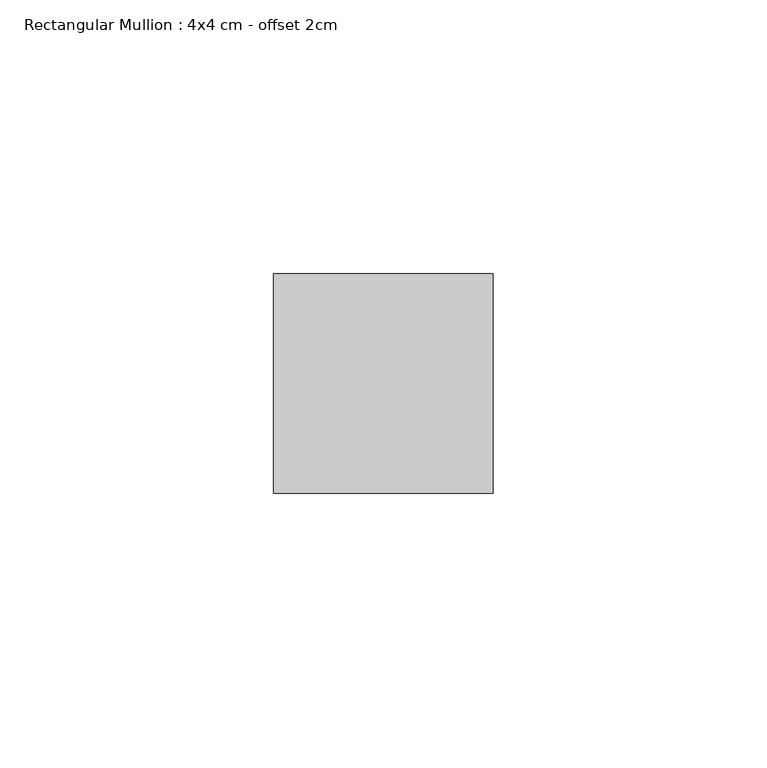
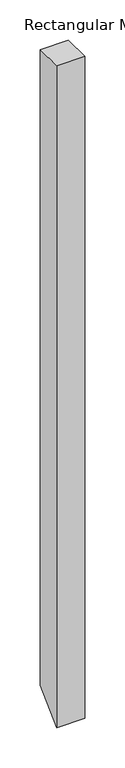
"""IFC4 building model written with IfcOpenShell, lengths in millimetres: member geometry, Rectangular Mullion : 4x4 cm - offset 2cm."""

from ifc_helpers import new_model, si_unit, frame, origin, place, context, project, spatial, polyline, outline, extrude, source, transform, mapped, element, save


def rectangular_mullion_4x4_cm_offset_2cm_959dc065(model_context):
    return source(origin(), model_context, "Body", "SweptSolid", [
        extrude(outline(polyline([(0.0, 0.0), (40.0, 0.0), (40.0, -960.0000003), (0.0, -1000.0000003), (0.0, 0.0)])), frame((-40.0, 0.0, 0.0), z_axis=(1.0, 0.0, 0.0), x_axis=(0.0, 1.0, 0.0)), (0.0, 0.0, 1.0), 40.0),
    ])


if __name__ == "__main__":
    model = new_model("IFC4")
    model_context = context("Model", 3, world=origin())
    ifc_project = project(units=[si_unit("LENGTHUNIT", "METRE", prefix="MILLI")], contexts=[model_context])
    site = spatial("IfcSite", under=ifc_project)
    building = spatial("IfcBuilding", under=site)
    placement = place(None, origin())
    rectangular_mullion_4x4_cm_offset_2cm_shape = rectangular_mullion_4x4_cm_offset_2cm_959dc065(model_context)
    element("IfcMember", 1, ObjectType="Rectangular Mullion : 4x4 cm - offset 2cm", at=placement, inside=building, context=model_context, shape_type="MappedRepresentation", body=[
        mapped(rectangular_mullion_4x4_cm_offset_2cm_shape, transform((0.0, 0.0, 0.0), x_axis=(1.0, 0.0, 0.0), y_axis=(0.0, 1.0, 0.0), z_axis=(0.0, 0.0, 1.0))),
    ])
    save(model, "model.ifc")
